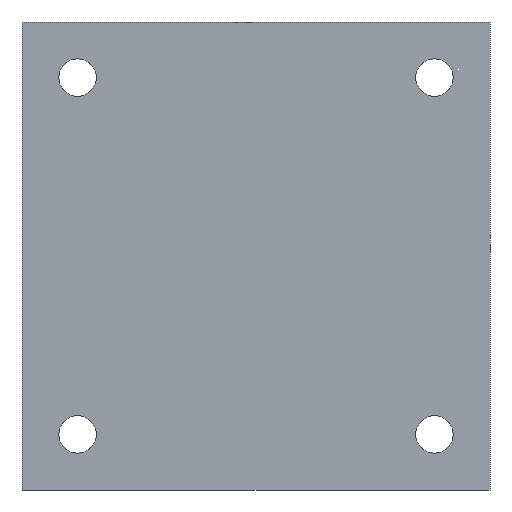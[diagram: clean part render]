
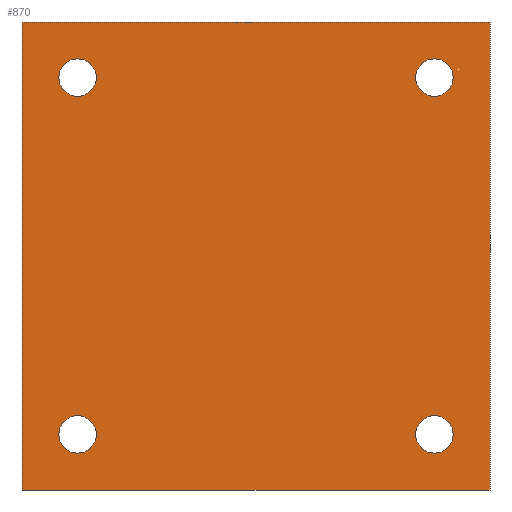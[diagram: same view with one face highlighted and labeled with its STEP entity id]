
A CAD part, front view. The second image highlights one B-rep face of the part: STEP entity #870.
In plain terms, the highlighted planar face has unit normal (0, -1, 0).
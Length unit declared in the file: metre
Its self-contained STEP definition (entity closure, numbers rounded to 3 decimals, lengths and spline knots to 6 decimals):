
#18=CIRCLE('',#923,0.0016);
#19=CIRCLE('',#925,0.0016);
#21=CIRCLE('',#928,0.0016);
#22=CIRCLE('',#930,0.0016);
#94=ORIENTED_EDGE('',*,*,#323,.F.);
#95=ORIENTED_EDGE('',*,*,#322,.F.);
#96=ORIENTED_EDGE('',*,*,#320,.F.);
#97=ORIENTED_EDGE('',*,*,#319,.F.);
#98=ORIENTED_EDGE('',*,*,#307,.F.);
#99=ORIENTED_EDGE('',*,*,#313,.T.);
#100=ORIENTED_EDGE('',*,*,#318,.T.);
#101=ORIENTED_EDGE('',*,*,#326,.F.);
#307=EDGE_CURVE('',#428,#429,#511,.T.);
#313=EDGE_CURVE('',#428,#432,#517,.T.);
#318=EDGE_CURVE('',#432,#435,#522,.T.);
#319=EDGE_CURVE('',#436,#436,#18,.T.);
#320=EDGE_CURVE('',#437,#437,#19,.T.);
#322=EDGE_CURVE('',#439,#439,#21,.T.);
#323=EDGE_CURVE('',#440,#440,#22,.T.);
#326=EDGE_CURVE('',#429,#435,#524,.T.);
#428=VERTEX_POINT('',#1262);
#429=VERTEX_POINT('',#1264);
#432=VERTEX_POINT('',#1273);
#435=VERTEX_POINT('',#1282);
#436=VERTEX_POINT('',#1286);
#437=VERTEX_POINT('',#1289);
#439=VERTEX_POINT('',#1294);
#440=VERTEX_POINT('',#1297);
#511=LINE('',#1263,#625);
#517=LINE('',#1274,#631);
#522=LINE('',#1283,#636);
#524=LINE('',#1302,#638);
#625=VECTOR('',#1018,1.);
#631=VECTOR('',#1026,1.);
#636=VECTOR('',#1033,1.);
#638=VECTOR('',#1057,1.);
#722=EDGE_LOOP('',(#94));
#723=EDGE_LOOP('',(#95));
#724=EDGE_LOOP('',(#96));
#725=EDGE_LOOP('',(#97));
#726=EDGE_LOOP('',(#98,#99,#100,#101));
#780=FACE_BOUND('',#722,.T.);
#781=FACE_BOUND('',#723,.T.);
#782=FACE_BOUND('',#724,.T.);
#783=FACE_BOUND('',#725,.T.);
#784=FACE_BOUND('',#726,.T.);
#828=PLANE('',#933);
#870=ADVANCED_FACE('',(#780,#781,#782,#783,#784),#828,.T.);
#923=AXIS2_PLACEMENT_3D('',#1285,#1036,#1037);
#925=AXIS2_PLACEMENT_3D('',#1288,#1040,#1041);
#928=AXIS2_PLACEMENT_3D('',#1293,#1046,#1047);
#930=AXIS2_PLACEMENT_3D('',#1296,#1050,#1051);
#933=AXIS2_PLACEMENT_3D('',#1303,#1058,#1059);
#1018=DIRECTION('',(1.,0.,0.));
#1026=DIRECTION('',(0.,0.,-1.));
#1033=DIRECTION('',(1.,0.,0.));
#1036=DIRECTION('',(0.,-1.,0.));
#1037=DIRECTION('',(1.,0.,0.));
#1040=DIRECTION('',(0.,-1.,0.));
#1041=DIRECTION('',(1.,0.,0.));
#1046=DIRECTION('',(0.,-1.,0.));
#1047=DIRECTION('',(1.,0.,0.));
#1050=DIRECTION('',(0.,-1.,0.));
#1051=DIRECTION('',(1.,0.,0.));
#1057=DIRECTION('',(0.,0.,-1.));
#1058=DIRECTION('',(0.,-1.,0.));
#1059=DIRECTION('',(1.,0.,0.));
#1262=CARTESIAN_POINT('',(-0.02,-0.002,0.02));
#1263=CARTESIAN_POINT('',(0.,-0.002,0.02));
#1264=CARTESIAN_POINT('',(0.02,-0.002,0.02));
#1273=CARTESIAN_POINT('',(-0.02,-0.002,-0.02));
#1274=CARTESIAN_POINT('',(-0.02,-0.002,0.));
#1282=CARTESIAN_POINT('',(0.02,-0.002,-0.02));
#1283=CARTESIAN_POINT('',(0.,-0.002,-0.02));
#1285=CARTESIAN_POINT('',(-0.01525,-0.002,0.01525));
#1286=CARTESIAN_POINT('',(-0.01365,-0.002,0.01525));
#1288=CARTESIAN_POINT('',(0.01525,-0.002,0.01525));
#1289=CARTESIAN_POINT('',(0.01685,-0.002,0.01525));
#1293=CARTESIAN_POINT('',(-0.01525,-0.002,-0.01525));
#1294=CARTESIAN_POINT('',(-0.01365,-0.002,-0.01525));
#1296=CARTESIAN_POINT('',(0.01525,-0.002,-0.01525));
#1297=CARTESIAN_POINT('',(0.01685,-0.002,-0.01525));
#1302=CARTESIAN_POINT('',(0.02,-0.002,0.));
#1303=CARTESIAN_POINT('',(0.,-0.002,0.));
